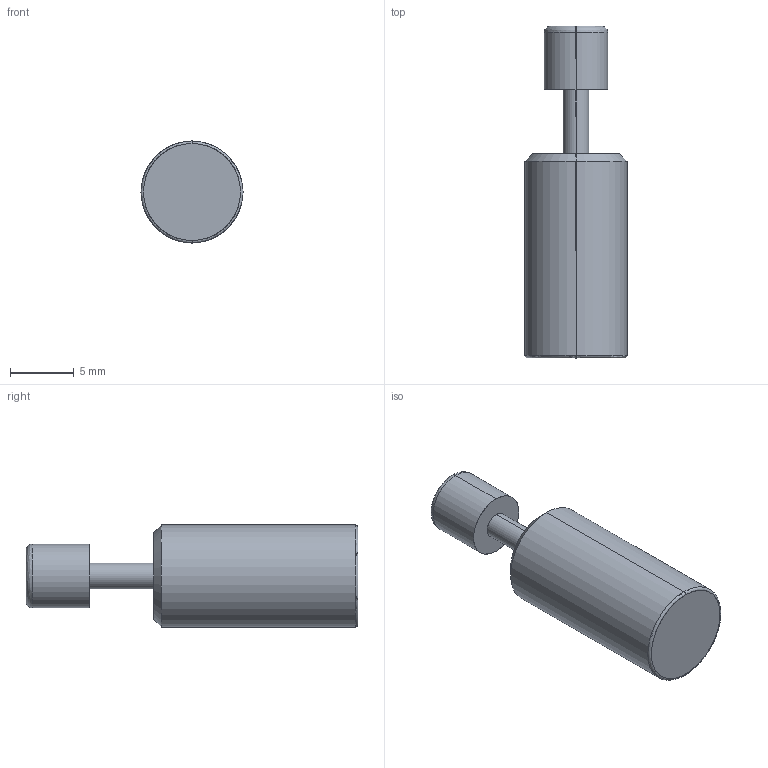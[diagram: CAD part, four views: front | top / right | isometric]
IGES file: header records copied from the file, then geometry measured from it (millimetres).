
Start section: SolidWorks IGES file using analytic representation for surfaces
Bounding box: 8 x 26 x 8 mm (x, y, z)
Surface area: 630.6 mm2 (no closed solid volume)
Topology: 0 solids, 0 shells, 16 faces, 240 edges, 240 vertices
Faces by surface type: bspline 8, revolution 8
